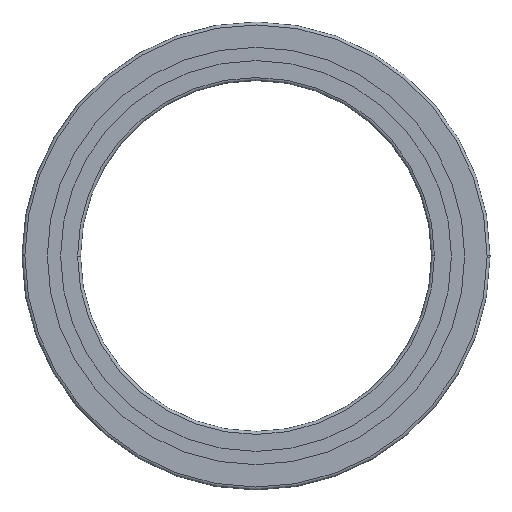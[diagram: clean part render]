
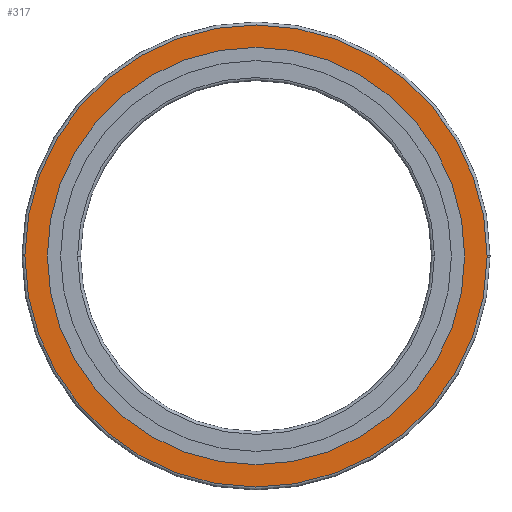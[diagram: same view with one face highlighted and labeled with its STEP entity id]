
A CAD part, front view. The second image highlights one B-rep face of the part: STEP entity #317.
In plain terms, the highlighted planar face has unit normal (0, -1, 0).
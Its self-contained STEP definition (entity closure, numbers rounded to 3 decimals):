
#317=ADVANCED_FACE('',(#856,#857),#858,.F.);
#395=VERTEX_POINT('',#946);
#413=EDGE_CURVE('',#791,#775,#968,.T.);
#493=EDGE_CURVE('',#775,#513,#1061,.T.);
#513=VERTEX_POINT('',#1081);
#593=VERTEX_POINT('',#1168);
#641=EDGE_CURVE('',#395,#593,#1221,.T.);
#669=EDGE_CURVE('',#593,#395,#1256,.T.);
#715=EDGE_CURVE('',#807,#791,#1303,.T.);
#775=VERTEX_POINT('',#1371);
#791=VERTEX_POINT('',#1388);
#793=EDGE_CURVE('',#513,#807,#1390,.T.);
#807=VERTEX_POINT('',#1405);
#856=FACE_OUTER_BOUND('',#1456,.T.);
#857=FACE_BOUND('',#1457,.T.);
#858=PLANE('',#1458);
#946=CARTESIAN_POINT('',(107.0,0.0,0.));
#968=CIRCLE('',#1595,118.5);
#1061=CIRCLE('',#1705,118.5);
#1081=CARTESIAN_POINT('',(-118.5,0.0,0.));
#1168=CARTESIAN_POINT('',(-107.0,0.0,0.0));
#1221=CIRCLE('',#1906,107.0);
#1256=CIRCLE('',#1947,107.0);
#1303=CIRCLE('',#2013,118.5);
#1371=CARTESIAN_POINT('',(-118.498,0.0,0.733));
#1388=CARTESIAN_POINT('',(118.5,0.0,0.0));
#1390=CIRCLE('',#2118,118.5);
#1405=CARTESIAN_POINT('',(118.498,0.0,-0.733));
#1456=EDGE_LOOP('',(#2171,#2172,#2173,#2174));
#1457=EDGE_LOOP('',(#2175,#2176));
#1458=AXIS2_PLACEMENT_3D('',#2177,#2178,#2179);
#1595=AXIS2_PLACEMENT_3D('',#2352,#2353,#2354);
#1705=AXIS2_PLACEMENT_3D('',#2490,#2491,#2492);
#1906=AXIS2_PLACEMENT_3D('',#2675,#2676,#2677);
#1947=AXIS2_PLACEMENT_3D('',#2739,#2740,#2741);
#2013=AXIS2_PLACEMENT_3D('',#2789,#2790,#2791);
#2118=AXIS2_PLACEMENT_3D('',#2898,#2899,#2900);
#2171=ORIENTED_EDGE('',*,*,#413,.T.);
#2172=ORIENTED_EDGE('',*,*,#493,.T.);
#2173=ORIENTED_EDGE('',*,*,#793,.T.);
#2174=ORIENTED_EDGE('',*,*,#715,.T.);
#2175=ORIENTED_EDGE('',*,*,#669,.F.);
#2176=ORIENTED_EDGE('',*,*,#641,.F.);
#2177=CARTESIAN_POINT('',(0.0,0.0,0.0));
#2178=DIRECTION('',(0.0,1.0,0.0));
#2179=DIRECTION('',(1.0,0.0,-0.0));
#2352=CARTESIAN_POINT('',(0.0,0.0,0.0));
#2353=DIRECTION('',(0.0,-1.0,0.0));
#2354=DIRECTION('',(1.0,0.0,0.0));
#2490=CARTESIAN_POINT('',(0.0,0.0,0.0));
#2491=DIRECTION('',(0.0,-1.0,0.0));
#2492=DIRECTION('',(1.0,0.0,0.0));
#2675=CARTESIAN_POINT('',(0.0,0.0,0.0));
#2676=DIRECTION('',(0.0,-1.0,0.0));
#2677=DIRECTION('',(1.0,0.0,0.0));
#2739=CARTESIAN_POINT('',(0.0,0.0,0.0));
#2740=DIRECTION('',(0.0,-1.0,0.0));
#2741=DIRECTION('',(-1.0,0.0,0.0));
#2789=CARTESIAN_POINT('',(0.0,0.0,0.0));
#2790=DIRECTION('',(0.0,-1.0,0.0));
#2791=DIRECTION('',(-1.0,0.0,0.0));
#2898=CARTESIAN_POINT('',(0.0,0.0,0.0));
#2899=DIRECTION('',(0.0,-1.0,0.0));
#2900=DIRECTION('',(-1.0,0.0,0.0));
